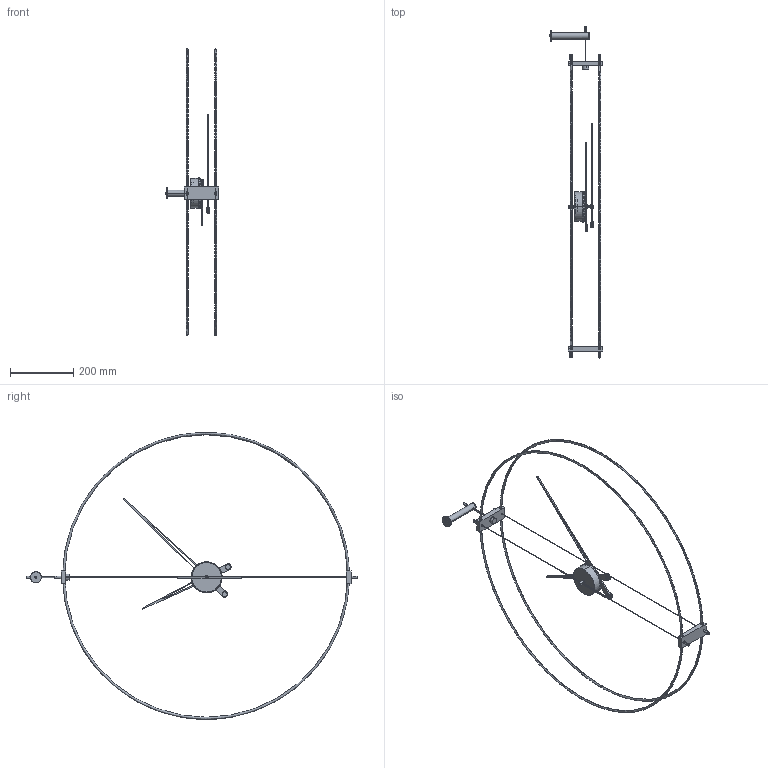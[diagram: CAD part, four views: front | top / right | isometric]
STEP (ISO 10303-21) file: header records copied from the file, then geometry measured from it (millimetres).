
FILE_DESCRIPTION (( 'STEP AP214' ), '1' );
FILE_NAME ('BARCELONA.STEP', '2015-11-04T11:42:36', ( '' ), ( '' ), 'SwSTEP 2.0', 'SolidWorks 2013', '' );
FILE_SCHEMA (( 'AUTOMOTIVE_DESIGN' ));
Length unit declared in the file: millimetre
Products named in the file (42): contrapeso_pequeno; disco_madera; aguja_minutera_laca; arandela_verificar_din; taco_s10; tornillo_doble_cabeza; remate_tensor; anclaje_pared; remate_final_fibra; casquillo_anclaje; casquillo_interior_taco_madera; varilla_anclaje; din913_m4_l6; rosca_tensor; caja_motor; fibra_900mm; din912_m4_l6; tapon_anclaje; taco_pequeno_inferior; posicionador_m4; horaria_laca; taco_pequeno_superior; cierre_maquinaria; tuerca_horaria; maquinaria; inserto_horaria; BARCELONA; junta_motor; aguja_horaria_laca; caja_frontal; minutera_laca; caja_trasera; tuerca_minutera; anclaje_cilindro_moleteado; arandela; ecler_; canon; varilla_motor_; embellecedor; tensor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
Assembly tree (65 placements, depth 3):
  BARCELONA
    taco_pequeno_superior
    taco_pequeno_inferior
    fibra_900mm  x2
    rosca_tensor  x4
    varilla_anclaje
    casquillo_anclaje
    anclaje_pared
    tornillo_doble_cabeza
    arandela_verificar_din
    disco_madera
    tapa_tensor  x4
    tensor  x2
    varilla_motor_
    ecler_
    anclaje_cilindro_moleteado
    caja_motor
      caja_trasera
      caja_frontal
      junta_motor
      maquinaria
      cierre_maquinaria
      posicionador_m4
      din912_m4_l6
    din913_m4_l6
    casquillo_interior_taco_madera  x4
    remate_final_fibra  x8
    remate_tensor  x4
    taco_s10
    minutera_laca
      aguja_minutera_laca
      contrapeso_pequeno
      cierre_contrapeso
      embellecedor
      canon
      arandela
      tuerca_minutera
    horaria_laca
      aguja_horaria_laca
      contrapeso_pequeno
      cierre_contrapeso
      inserto_horaria
      arandela
      tuerca_horaria
    tapon_anclaje
Bounding box: 169.9 x 1049.53 x 907.34 mm (x, y, z)
Volume: 516209.1 mm3; surface area: 285657.3 mm2
Topology: 62 solids, 62 shells, 1039 faces, 2599 edges, 1697 vertices
Faces by surface type: plane 465, cylinder 419, bspline 84, cone 67, torus 4
Entity records: 242895 total; most frequent: CARTESIAN_POINT 221529, ORIENTED_EDGE 4226, DIRECTION 3799, EDGE_CURVE 2113, VERTEX_POINT 1407, AXIS2_PLACEMENT_3D 1333, VECTOR 1133, LINE 1133
